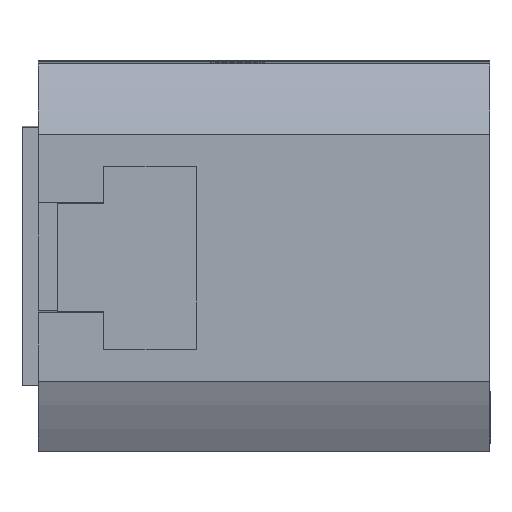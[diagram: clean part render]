
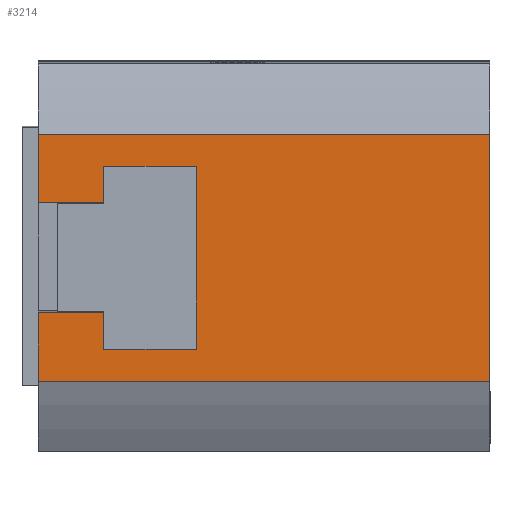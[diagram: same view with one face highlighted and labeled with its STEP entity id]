
A CAD part, left-side view. The second image highlights one B-rep face of the part: STEP entity #3214.
In plain terms, the highlighted planar face has unit normal (-1, 0, -0.005) as drawn and (0, 1, 0) by its records, which use the part's own axes.
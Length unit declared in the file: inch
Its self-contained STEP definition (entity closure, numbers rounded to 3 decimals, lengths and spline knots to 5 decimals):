
#200 = FACE_OUTER_BOUND ( 'NONE', #5368, .T. ) ;
#1356 = CARTESIAN_POINT ( 'NONE',  ( -0.82677, 1.25984, 0.45233 ) ) ;
#1600 = CARTESIAN_POINT ( 'NONE',  ( -0.24803, 1.25984, -0.33465 ) ) ;
#1616 = CARTESIAN_POINT ( 'NONE',  ( -0.58661, 1.25984, -0.20079 ) ) ;
#1618 = CARTESIAN_POINT ( 'NONE',  ( -0.82677, 1.25984, -0.20079 ) ) ;
#1625 = CARTESIAN_POINT ( 'NONE',  ( -0.82677, 1.25984, 0.20079 ) ) ;
#1638 = CARTESIAN_POINT ( 'NONE',  ( 0.82677, 1.25984, -0.45233 ) ) ;
#1651 = CARTESIAN_POINT ( 'NONE',  ( -0.58661, 1.25984, -0.33465 ) ) ;
#1664 = CARTESIAN_POINT ( 'NONE',  ( 0.82677, 1.25984, 0.45233 ) ) ;
#1690 = CARTESIAN_POINT ( 'NONE',  ( -0.58661, 1.25984, 0.33465 ) ) ;
#1695 = CARTESIAN_POINT ( 'NONE',  ( -0.82677, 1.25984, -0.45233 ) ) ;
#1721 = CARTESIAN_POINT ( 'NONE',  ( -0.24803, 1.25984, 0.33465 ) ) ;
#1732 = CARTESIAN_POINT ( 'NONE',  ( -0.58661, 1.25984, 0.20079 ) ) ;
#2167 = DIRECTION ( 'NONE',  ( 0., 0., -1. ) ) ;
#2170 = DIRECTION ( 'NONE',  ( 0., -1., 0. ) ) ;
#2171 = CARTESIAN_POINT ( 'NONE',  ( 0.82677, 1.25984, 0.45233 ) ) ;
#2174 = PLANE ( 'NONE',  #3038 ) ;
#2322 = EDGE_CURVE ( 'NONE', #6493, #6441, #5603, .T. ) ;
#2326 = EDGE_CURVE ( 'NONE', #6384, #6493, #5611, .T. ) ;
#2329 = EDGE_CURVE ( 'NONE', #6410, #6384, #5617, .T. ) ;
#2332 = EDGE_CURVE ( 'NONE', #6375, #6410, #5623, .T. ) ;
#2336 = EDGE_CURVE ( 'NONE', #6460, #6375, #5631, .T. ) ;
#2406 = LINE ( 'NONE', #4995, #2408 ) ;
#2408 = VECTOR ( 'NONE', #4992, 39.37008 ) ;
#2636 = EDGE_CURVE ( 'NONE', #6832, #6460, #5670, .T. ) ;
#2639 = EDGE_CURVE ( 'NONE', #6467, #6465, #5677, .T. ) ;
#2643 = EDGE_CURVE ( 'NONE', #6441, #6467, #5685, .T. ) ;
#2664 = EDGE_CURVE ( 'NONE', #6465, #6406, #5722, .T. ) ;
#2694 = EDGE_CURVE ( 'NONE', #6406, #6450, #5773, .T. ) ;
#2695 = EDGE_CURVE ( 'NONE', #6431, #6832, #5775, .T. ) ;
#2751 = EDGE_CURVE ( 'NONE', #6450, #6431, #2406, .T. ) ;
#3038 = AXIS2_PLACEMENT_3D ( 'NONE', #2171, #2170, #2167 ) ;
#3214 = ADVANCED_FACE ( 'NONE', ( #200 ), #2174, .F. ) ;
#3769 = ORIENTED_EDGE ( 'NONE', *, *, #2664, .F. ) ;
#3770 = ORIENTED_EDGE ( 'NONE', *, *, #2694, .F. ) ;
#3771 = ORIENTED_EDGE ( 'NONE', *, *, #2751, .F. ) ;
#3772 = ORIENTED_EDGE ( 'NONE', *, *, #2695, .F. ) ;
#3773 = ORIENTED_EDGE ( 'NONE', *, *, #2636, .F. ) ;
#3774 = ORIENTED_EDGE ( 'NONE', *, *, #2336, .F. ) ;
#3775 = ORIENTED_EDGE ( 'NONE', *, *, #2332, .F. ) ;
#3776 = ORIENTED_EDGE ( 'NONE', *, *, #2329, .F. ) ;
#3777 = ORIENTED_EDGE ( 'NONE', *, *, #2326, .F. ) ;
#3778 = ORIENTED_EDGE ( 'NONE', *, *, #2322, .F. ) ;
#3779 = ORIENTED_EDGE ( 'NONE', *, *, #2643, .F. ) ;
#3780 = ORIENTED_EDGE ( 'NONE', *, *, #2639, .F. ) ;
#4854 = DIRECTION ( 'NONE',  ( -1., 0., 0. ) ) ;
#4857 = CARTESIAN_POINT ( 'NONE',  ( 0.82677, 1.25984, 0.45233 ) ) ;
#4861 = DIRECTION ( 'NONE',  ( 1., 0., 0. ) ) ;
#4863 = CARTESIAN_POINT ( 'NONE',  ( 0.82677, 1.25984, -0.45233 ) ) ;
#4992 = DIRECTION ( 'NONE',  ( 0., 0., 1. ) ) ;
#4995 = CARTESIAN_POINT ( 'NONE',  ( 0.82677, 1.25984, 0. ) ) ;
#5368 = EDGE_LOOP ( 'NONE', ( #3780, #3779, #3778, #3777, #3776, #3775, #3774, #3773, #3772, #3771, #3770, #3769 ) ) ;
#5603 = LINE ( 'NONE', #5980, #5604 ) ;
#5604 = VECTOR ( 'NONE', #5979, 39.37008 ) ;
#5611 = LINE ( 'NONE', #5971, #5612 ) ;
#5612 = VECTOR ( 'NONE', #5970, 39.37008 ) ;
#5617 = LINE ( 'NONE', #5965, #5618 ) ;
#5618 = VECTOR ( 'NONE', #5964, 39.37008 ) ;
#5623 = LINE ( 'NONE', #5956, #5624 ) ;
#5624 = VECTOR ( 'NONE', #5954, 39.37008 ) ;
#5631 = LINE ( 'NONE', #5943, #5632 ) ;
#5632 = VECTOR ( 'NONE', #5942, 39.37008 ) ;
#5670 = LINE ( 'NONE', #5888, #5672 ) ;
#5672 = VECTOR ( 'NONE', #5887, 39.37008 ) ;
#5677 = LINE ( 'NONE', #5881, #5678 ) ;
#5678 = VECTOR ( 'NONE', #5880, 39.37008 ) ;
#5685 = LINE ( 'NONE', #5871, #5686 ) ;
#5686 = VECTOR ( 'NONE', #5870, 39.37008 ) ;
#5722 = LINE ( 'NONE', #5816, #5724 ) ;
#5724 = VECTOR ( 'NONE', #5814, 39.37008 ) ;
#5773 = LINE ( 'NONE', #4863, #5774 ) ;
#5774 = VECTOR ( 'NONE', #4861, 39.37008 ) ;
#5775 = LINE ( 'NONE', #4857, #5776 ) ;
#5776 = VECTOR ( 'NONE', #4854, 39.37008 ) ;
#5814 = DIRECTION ( 'NONE',  ( 0., 0., -1. ) ) ;
#5816 = CARTESIAN_POINT ( 'NONE',  ( -0.82677, 1.25984, 0.45233 ) ) ;
#5870 = DIRECTION ( 'NONE',  ( 0., 0., 1. ) ) ;
#5871 = CARTESIAN_POINT ( 'NONE',  ( -0.58661, 1.25984, 0.45233 ) ) ;
#5880 = DIRECTION ( 'NONE',  ( -1., 0., 0. ) ) ;
#5881 = CARTESIAN_POINT ( 'NONE',  ( 0.82677, 1.25984, -0.20079 ) ) ;
#5887 = DIRECTION ( 'NONE',  ( 0., 0., -1. ) ) ;
#5888 = CARTESIAN_POINT ( 'NONE',  ( -0.82677, 1.25984, 0.45233 ) ) ;
#5942 = DIRECTION ( 'NONE',  ( 1., 0., 0. ) ) ;
#5943 = CARTESIAN_POINT ( 'NONE',  ( 0.82677, 1.25984, 0.20079 ) ) ;
#5954 = DIRECTION ( 'NONE',  ( 0., 0., 1. ) ) ;
#5956 = CARTESIAN_POINT ( 'NONE',  ( -0.58661, 1.25984, 0.45233 ) ) ;
#5964 = DIRECTION ( 'NONE',  ( 1., 0., 0. ) ) ;
#5965 = CARTESIAN_POINT ( 'NONE',  ( 0.82677, 1.25984, 0.33465 ) ) ;
#5970 = DIRECTION ( 'NONE',  ( 0., 0., -1. ) ) ;
#5971 = CARTESIAN_POINT ( 'NONE',  ( -0.24803, 1.25984, 0.45233 ) ) ;
#5979 = DIRECTION ( 'NONE',  ( -1., 0., 0. ) ) ;
#5980 = CARTESIAN_POINT ( 'NONE',  ( 0.82677, 1.25984, -0.33465 ) ) ;
#6375 = VERTEX_POINT ( 'NONE', #1732 ) ;
#6384 = VERTEX_POINT ( 'NONE', #1721 ) ;
#6406 = VERTEX_POINT ( 'NONE', #1695 ) ;
#6410 = VERTEX_POINT ( 'NONE', #1690 ) ;
#6431 = VERTEX_POINT ( 'NONE', #1664 ) ;
#6441 = VERTEX_POINT ( 'NONE', #1651 ) ;
#6450 = VERTEX_POINT ( 'NONE', #1638 ) ;
#6460 = VERTEX_POINT ( 'NONE', #1625 ) ;
#6465 = VERTEX_POINT ( 'NONE', #1618 ) ;
#6467 = VERTEX_POINT ( 'NONE', #1616 ) ;
#6493 = VERTEX_POINT ( 'NONE', #1600 ) ;
#6832 = VERTEX_POINT ( 'NONE', #1356 ) ;
